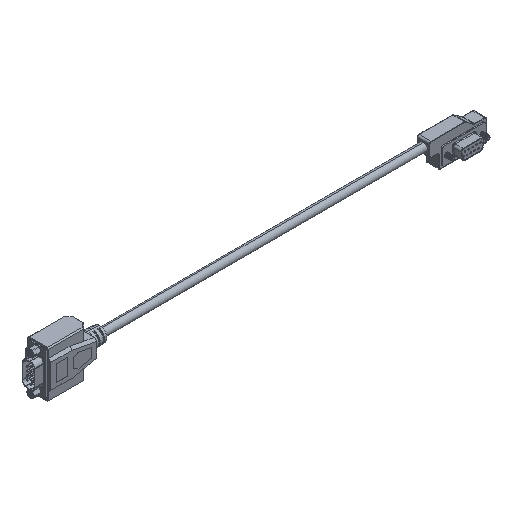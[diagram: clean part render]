
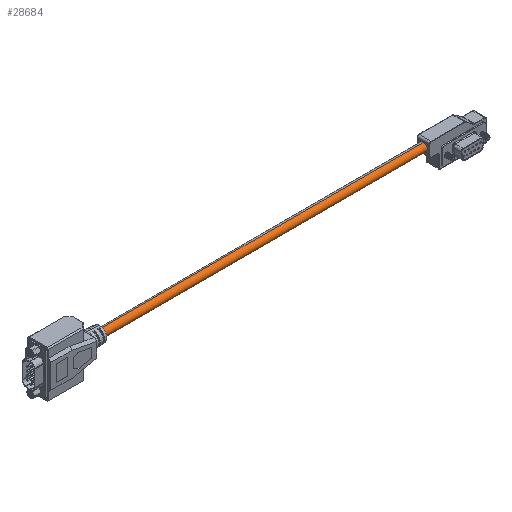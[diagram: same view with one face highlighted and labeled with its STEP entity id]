
A CAD part, isometric view. The second image highlights one B-rep face of the part: STEP entity #28684.
In plain terms, the highlighted cylindrical face has radius 2.794 mm (diameter 5.588 mm), a partial arc.
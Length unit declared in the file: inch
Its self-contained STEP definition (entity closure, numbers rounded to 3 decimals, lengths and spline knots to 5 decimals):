
#712 = CARTESIAN_POINT ( 'NONE',  ( -5.5, 0., -0.11 ) ) ;
#970 = LINE ( 'NONE', #18595, #20763 ) ;
#1599 = DIRECTION ( 'NONE',  ( -1., 0., 0. ) ) ;
#1958 = EDGE_CURVE ( 'NONE', #6378, #5488, #970, .T. ) ;
#2698 = DIRECTION ( 'NONE',  ( -1., 0., 0. ) ) ;
#3051 = CARTESIAN_POINT ( 'NONE',  ( 5., 0., 0.11 ) ) ;
#3937 = FACE_OUTER_BOUND ( 'NONE', #8209, .T. ) ;
#4182 = CARTESIAN_POINT ( 'NONE',  ( 5., 0., 0. ) ) ;
#4898 = DIRECTION ( 'NONE',  ( 1., 0., 0. ) ) ;
#5488 = VERTEX_POINT ( 'NONE', #13009 ) ;
#6378 = VERTEX_POINT ( 'NONE', #3051 ) ;
#6893 = DIRECTION ( 'NONE',  ( 0., 0., -1. ) ) ;
#8209 = EDGE_LOOP ( 'NONE', ( #19419, #9218, #20552, #18412 ) ) ;
#9035 = DIRECTION ( 'NONE',  ( -1., 0., 0. ) ) ;
#9218 = ORIENTED_EDGE ( 'NONE', *, *, #10269, .F. ) ;
#9345 = AXIS2_PLACEMENT_3D ( 'NONE', #12439, #4898, #10104 ) ;
#10104 = DIRECTION ( 'NONE',  ( 0., 0., -1. ) ) ;
#10269 = EDGE_CURVE ( 'NONE', #6378, #11639, #24788, .T. ) ;
#11269 = CARTESIAN_POINT ( 'NONE',  ( 5., 0., -0.11 ) ) ;
#11376 = DIRECTION ( 'NONE',  ( 0., 0., 1. ) ) ;
#11559 = AXIS2_PLACEMENT_3D ( 'NONE', #4182, #9035, #11376 ) ;
#11639 = VERTEX_POINT ( 'NONE', #11269 ) ;
#12439 = CARTESIAN_POINT ( 'NONE',  ( -5.5, 0., 0. ) ) ;
#13009 = CARTESIAN_POINT ( 'NONE',  ( -5.5, 0., 0.11 ) ) ;
#13640 = CYLINDRICAL_SURFACE ( 'NONE', #11559, 0.11 ) ;
#14188 = CIRCLE ( 'NONE', #9345, 0.11 ) ;
#16567 = CARTESIAN_POINT ( 'NONE',  ( 5., 0., 0. ) ) ;
#18412 = ORIENTED_EDGE ( 'NONE', *, *, #28955, .T. ) ;
#18595 = CARTESIAN_POINT ( 'NONE',  ( 5., 0., 0.11 ) ) ;
#18929 = DIRECTION ( 'NONE',  ( 1., 0., 0. ) ) ;
#19419 = ORIENTED_EDGE ( 'NONE', *, *, #20778, .F. ) ;
#19473 = VECTOR ( 'NONE', #2698, 39.37008 ) ;
#19517 = LINE ( 'NONE', #23158, #19473 ) ;
#20552 = ORIENTED_EDGE ( 'NONE', *, *, #1958, .T. ) ;
#20763 = VECTOR ( 'NONE', #1599, 39.37008 ) ;
#20778 = EDGE_CURVE ( 'NONE', #11639, #29234, #19517, .T. ) ;
#22414 = AXIS2_PLACEMENT_3D ( 'NONE', #16567, #18929, #6893 ) ;
#23158 = CARTESIAN_POINT ( 'NONE',  ( 5., 0., -0.11 ) ) ;
#24788 = CIRCLE ( 'NONE', #22414, 0.11 ) ;
#28684 = ADVANCED_FACE ( 'NONE', ( #3937 ), #13640, .T. ) ;
#28955 = EDGE_CURVE ( 'NONE', #5488, #29234, #14188, .T. ) ;
#29234 = VERTEX_POINT ( 'NONE', #712 ) ;
